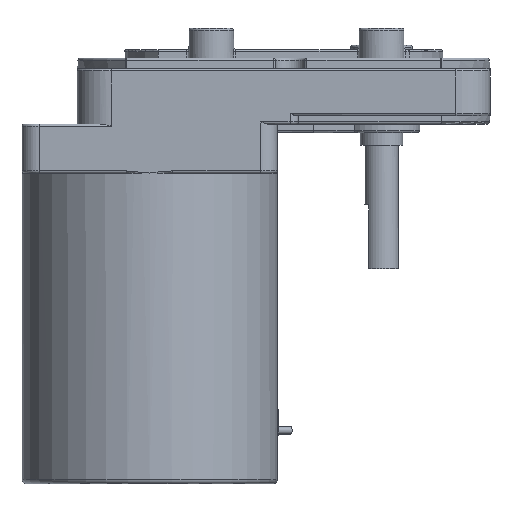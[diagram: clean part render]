
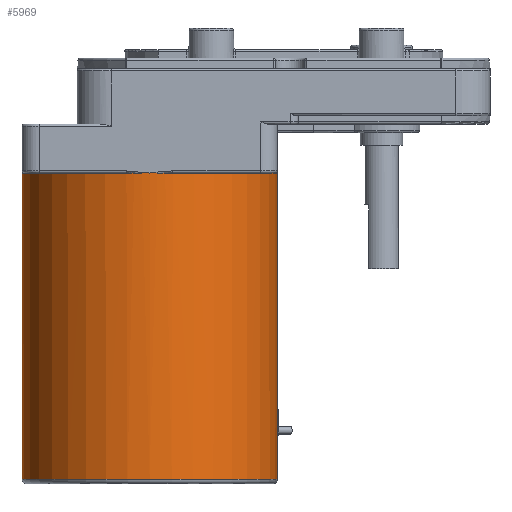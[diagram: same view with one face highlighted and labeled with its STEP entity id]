
A CAD part, left-side view. The second image highlights one B-rep face of the part: STEP entity #5969.
In plain terms, the highlighted cylindrical face has radius 30 mm (diameter 60 mm), a full revolution.
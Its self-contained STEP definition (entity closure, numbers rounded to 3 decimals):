
#3374=CARTESIAN_POINT('',(-9.,71.0,-19.));
#3375=VERTEX_POINT('',#3374);
#4947=CARTESIAN_POINT('',(51.,71.0,-19.0));
#4948=VERTEX_POINT('',#4947);
#4998=CARTESIAN_POINT('',(-8.5,65.546,-19.));
#4999=VERTEX_POINT('',#4998);
#5065=CARTESIAN_POINT('',(15.546,41.5,-19.));
#5066=VERTEX_POINT('',#5065);
#5119=CARTESIAN_POINT('',(21.,71.0,-19.));
#5120=DIRECTION('',(0.0,0.0,1.0));
#5121=DIRECTION('',(1.0,0.0,0.0));
#5122=AXIS2_PLACEMENT_3D('',#5119,#5120,#5121);
#5123=CIRCLE('',#5122,30.0);
#5124=EDGE_CURVE('',#3375,#4999,#5123,.T.);
#5155=CARTESIAN_POINT('',(21.,41.0,-19.));
#5156=VERTEX_POINT('',#5155);
#5157=CARTESIAN_POINT('',(21.,71.0,-19.));
#5158=DIRECTION('',(0.0,0.0,1.0));
#5159=DIRECTION('',(1.0,0.0,0.0));
#5160=AXIS2_PLACEMENT_3D('',#5157,#5158,#5159);
#5161=CIRCLE('',#5160,30.0);
#5162=EDGE_CURVE('',#5066,#5156,#5161,.T.);
#5183=CARTESIAN_POINT('',(15.546,100.5,-19.));
#5184=VERTEX_POINT('',#5183);
#5255=CARTESIAN_POINT('',(-8.5,76.454,-19.));
#5256=VERTEX_POINT('',#5255);
#5301=CARTESIAN_POINT('',(21.,101.0,-19.0));
#5302=VERTEX_POINT('',#5301);
#5312=CARTESIAN_POINT('',(21.,71.0,-19.));
#5313=DIRECTION('',(0.0,0.0,1.0));
#5314=DIRECTION('',(1.0,0.0,0.0));
#5315=AXIS2_PLACEMENT_3D('',#5312,#5313,#5314);
#5316=CIRCLE('',#5315,30.0);
#5317=EDGE_CURVE('',#5302,#5184,#5316,.T.);
#5348=CARTESIAN_POINT('',(21.,71.0,-19.));
#5349=DIRECTION('',(0.0,0.0,1.0));
#5350=DIRECTION('',(1.0,0.0,0.0));
#5351=AXIS2_PLACEMENT_3D('',#5348,#5349,#5350);
#5352=CIRCLE('',#5351,30.0);
#5353=EDGE_CURVE('',#5256,#3375,#5352,.T.);
#5366=CARTESIAN_POINT('',(26.454,41.5,-19.));
#5367=VERTEX_POINT('',#5366);
#5438=CARTESIAN_POINT('',(50.5,65.546,-19.));
#5439=VERTEX_POINT('',#5438);
#5493=CARTESIAN_POINT('',(21.,71.0,-19.));
#5494=DIRECTION('',(0.0,0.0,1.0));
#5495=DIRECTION('',(1.0,0.0,0.0));
#5496=AXIS2_PLACEMENT_3D('',#5493,#5494,#5495);
#5497=CIRCLE('',#5496,30.0);
#5498=EDGE_CURVE('',#5156,#5367,#5497,.T.);
#5529=CARTESIAN_POINT('',(21.,71.0,-19.));
#5530=DIRECTION('',(0.0,0.0,1.0));
#5531=DIRECTION('',(1.0,0.0,0.0));
#5532=AXIS2_PLACEMENT_3D('',#5529,#5530,#5531);
#5533=CIRCLE('',#5532,30.0);
#5534=EDGE_CURVE('',#5439,#4948,#5533,.T.);
#5545=CARTESIAN_POINT('',(50.5,76.454,-19.));
#5546=VERTEX_POINT('',#5545);
#5612=CARTESIAN_POINT('',(26.454,100.5,-19.));
#5613=VERTEX_POINT('',#5612);
#5666=CARTESIAN_POINT('',(21.,71.0,-19.));
#5667=DIRECTION('',(0.0,0.0,1.0));
#5668=DIRECTION('',(1.0,0.0,0.0));
#5669=AXIS2_PLACEMENT_3D('',#5666,#5667,#5668);
#5670=CIRCLE('',#5669,30.0);
#5671=EDGE_CURVE('',#4948,#5546,#5670,.T.);
#5702=CARTESIAN_POINT('',(21.,71.0,-19.));
#5703=DIRECTION('',(0.0,0.0,1.0));
#5704=DIRECTION('',(1.0,0.0,0.0));
#5705=AXIS2_PLACEMENT_3D('',#5702,#5703,#5704);
#5706=CIRCLE('',#5705,30.0);
#5707=EDGE_CURVE('',#5613,#5302,#5706,.T.);
#5747=CARTESIAN_POINT('',(21.,71.0,-19.));
#5748=DIRECTION('',(0.0,0.0,1.0));
#5749=DIRECTION('',(1.0,0.0,0.0));
#5750=AXIS2_PLACEMENT_3D('',#5747,#5748,#5749);
#5751=CIRCLE('',#5750,30.0);
#5752=EDGE_CURVE('',#5184,#5256,#5751,.T.);
#5836=CARTESIAN_POINT('',(21.,71.0,-19.));
#5837=DIRECTION('',(0.0,0.0,1.0));
#5838=DIRECTION('',(1.0,0.0,0.0));
#5839=AXIS2_PLACEMENT_3D('',#5836,#5837,#5838);
#5840=CIRCLE('',#5839,30.0);
#5841=EDGE_CURVE('',#5546,#5613,#5840,.T.);
#5873=CARTESIAN_POINT('',(-9.,71.0,-91.0));
#5874=VERTEX_POINT('',#5873);
#5875=CARTESIAN_POINT('',(21.,71.0,-91.0));
#5876=DIRECTION('',(0.0,0.0,-1.0));
#5877=DIRECTION('',(1.0,0.0,0.0));
#5878=AXIS2_PLACEMENT_3D('',#5875,#5876,#5877);
#5879=CIRCLE('',#5878,30.0);
#5880=EDGE_CURVE('',#5874,#5874,#5879,.T.);
#5885=CARTESIAN_POINT('',(21.,71.0,-19.));
#5886=DIRECTION('',(0.0,0.0,-1.0));
#5887=DIRECTION('',(1.0,0.0,0.0));
#5888=AXIS2_PLACEMENT_3D('',#5885,#5886,#5887);
#5889=CYLINDRICAL_SURFACE('',#5888,30.0);
#5890=ORIENTED_EDGE('',*,*,#5124,.F.);
#5891=ORIENTED_EDGE('',*,*,#5353,.F.);
#5892=ORIENTED_EDGE('',*,*,#5752,.F.);
#5893=ORIENTED_EDGE('',*,*,#5317,.F.);
#5894=ORIENTED_EDGE('',*,*,#5707,.F.);
#5895=ORIENTED_EDGE('',*,*,#5841,.F.);
#5896=ORIENTED_EDGE('',*,*,#5671,.F.);
#5897=ORIENTED_EDGE('',*,*,#5534,.F.);
#5898=CARTESIAN_POINT('',(21.,71.0,-19.));
#5899=DIRECTION('',(0.0,0.0,1.0));
#5900=DIRECTION('',(1.0,0.0,0.0));
#5901=AXIS2_PLACEMENT_3D('',#5898,#5899,#5900);
#5902=CIRCLE('',#5901,30.0);
#5903=EDGE_CURVE('',#5367,#5439,#5902,.T.);
#5904=ORIENTED_EDGE('',*,*,#5903,.F.);
#5905=ORIENTED_EDGE('',*,*,#5498,.F.);
#5906=ORIENTED_EDGE('',*,*,#5162,.F.);
#5907=CARTESIAN_POINT('',(21.,71.0,-19.));
#5908=DIRECTION('',(0.0,0.0,1.0));
#5909=DIRECTION('',(1.0,0.0,0.0));
#5910=AXIS2_PLACEMENT_3D('',#5907,#5908,#5909);
#5911=CIRCLE('',#5910,30.0);
#5912=EDGE_CURVE('',#4999,#5066,#5911,.T.);
#5913=ORIENTED_EDGE('',*,*,#5912,.F.);
#5914=EDGE_LOOP('',(#5890,#5891,#5892,#5893,#5894,#5895,#5896,#5897,#5904,#5905,#5906,#5913));
#5915=FACE_OUTER_BOUND('',#5914,.T.);
#5916=CARTESIAN_POINT('',(37.282,45.803,-79.5));
#5917=VERTEX_POINT('',#5916);
#5918=CARTESIAN_POINT('',(27.304,41.67,-79.5));
#5919=VERTEX_POINT('',#5918);
#5920=CARTESIAN_POINT('',(37.282,45.803,-79.5));
#5921=CARTESIAN_POINT('',(37.282,45.803,-80.18));
#5922=CARTESIAN_POINT('',(37.166,45.727,-80.904));
#5923=CARTESIAN_POINT('',(36.692,45.43,-82.234));
#5924=CARTESIAN_POINT('',(36.334,45.21,-82.84));
#5925=CARTESIAN_POINT('',(35.496,44.73,-83.797));
#5926=CARTESIAN_POINT('',(34.961,44.438,-84.212));
#5927=CARTESIAN_POINT('',(33.767,43.844,-84.764));
#5928=CARTESIAN_POINT('',(33.108,43.544,-84.9));
#5929=CARTESIAN_POINT('',(31.853,43.024,-84.9));
#5930=CARTESIAN_POINT('',(31.174,42.77,-84.764));
#5931=CARTESIAN_POINT('',(29.91,42.346,-84.212));
#5932=CARTESIAN_POINT('',(29.325,42.174,-83.797));
#5933=CARTESIAN_POINT('',(28.394,41.921,-82.84));
#5934=CARTESIAN_POINT('',(27.985,41.823,-82.234));
#5935=CARTESIAN_POINT('',(27.44,41.698,-80.904));
#5936=CARTESIAN_POINT('',(27.304,41.67,-80.18));
#5937=CARTESIAN_POINT('',(27.304,41.67,-79.5));
#5938=B_SPLINE_CURVE_WITH_KNOTS('',3,(#5920,#5921,#5922,#5923,#5924,#5925,#5926,#5927,#5928,#5929,#5930,#5931,#5932,#5933,#5934,#5935,#5936,#5937),.UNSPECIFIED.,.F.,.U.,(4,2,2,2,2,2,2,2,4),(0.0,0.204,0.408,0.612,0.816,1.019,1.223,1.427,1.631),.UNSPECIFIED.);
#5939=EDGE_CURVE('',#5917,#5919,#5938,.T.);
#5940=ORIENTED_EDGE('',*,*,#5939,.T.);
#5941=CARTESIAN_POINT('',(27.304,41.67,-74.5));
#5942=VERTEX_POINT('',#5941);
#5943=CARTESIAN_POINT('',(27.304,41.67,-79.5));
#5944=DIRECTION('',(0.0,0.0,1.0));
#5945=VECTOR('',#5944,5.0);
#5946=LINE('',#5943,#5945);
#5947=EDGE_CURVE('',#5919,#5942,#5946,.T.);
#5948=ORIENTED_EDGE('',*,*,#5947,.T.);
#5949=CARTESIAN_POINT('',(37.282,45.803,-74.5));
#5950=VERTEX_POINT('',#5949);
#5951=CARTESIAN_POINT('',(21.,71.0,-74.5));
#5952=DIRECTION('',(0.0,0.0,1.0));
#5953=DIRECTION('',(1.0,0.0,0.0));
#5954=AXIS2_PLACEMENT_3D('',#5951,#5952,#5953);
#5955=CIRCLE('',#5954,30.0);
#5956=EDGE_CURVE('',#5942,#5950,#5955,.T.);
#5957=ORIENTED_EDGE('',*,*,#5956,.T.);
#5958=CARTESIAN_POINT('',(37.282,45.803,-74.5));
#5959=DIRECTION('',(0.0,0.0,-1.0));
#5960=VECTOR('',#5959,5.0);
#5961=LINE('',#5958,#5960);
#5962=EDGE_CURVE('',#5950,#5917,#5961,.T.);
#5963=ORIENTED_EDGE('',*,*,#5962,.T.);
#5964=EDGE_LOOP('',(#5940,#5948,#5957,#5963));
#5965=FACE_BOUND('',#5964,.T.);
#5966=ORIENTED_EDGE('',*,*,#5880,.F.);
#5967=EDGE_LOOP('',(#5966));
#5968=FACE_BOUND('',#5967,.T.);
#5969=ADVANCED_FACE('',(#5915,#5965,#5968),#5889,.T.);
